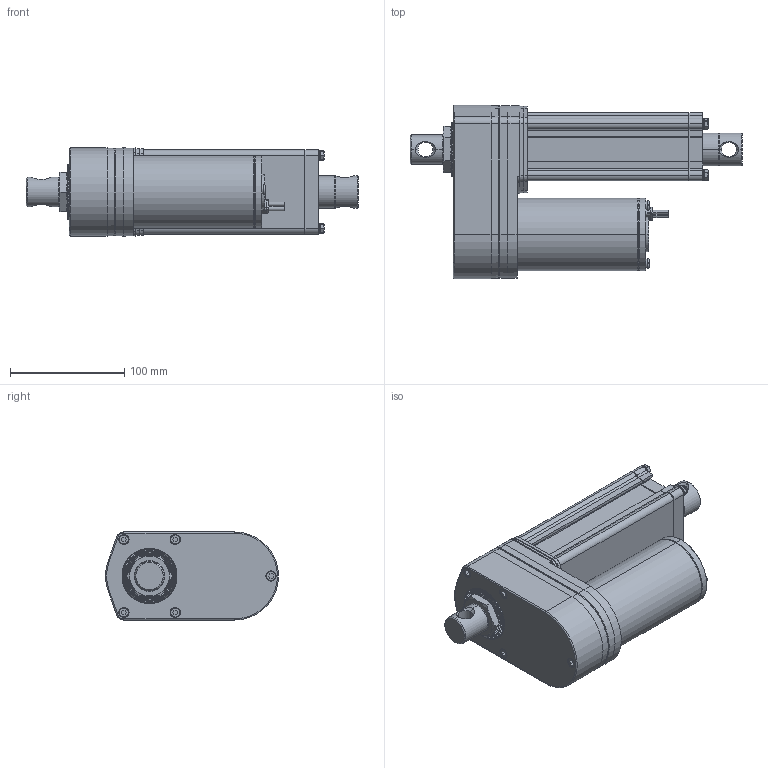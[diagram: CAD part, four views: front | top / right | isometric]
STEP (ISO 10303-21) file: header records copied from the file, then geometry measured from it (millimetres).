
FILE_DESCRIPTION((''),' ');
FILE_NAME('dszy12-100_std.stp',' ',('MSW'),('MSW'),' ','ACIS 14.0',' ');
FILE_SCHEMA(('automotive_design'));
Length unit declared in the file: inch
Products named in the file (2): dszy12-100_std
Bounding box: 291 x 151.7 x 77.2 mm (x, y, z)
Volume: 1594153.4 mm3; surface area: 161578.1 mm2
Topology: 2 solids, 2 shells, 1648 faces, 4015 edges, 2386 vertices
Faces by surface type: plane 1316, cylinder 218, cone 60, torus 30, bspline 24
Entity records: 60917 total; most frequent: CARTESIAN_POINT 8562, DIRECTION 8537, ORIENTED_EDGE 7982, EDGE_CURVE 3991, AXIS2_PLACEMENT_3D 2962, LINE 2613, VECTOR 2613, VERTEX_POINT 2386
